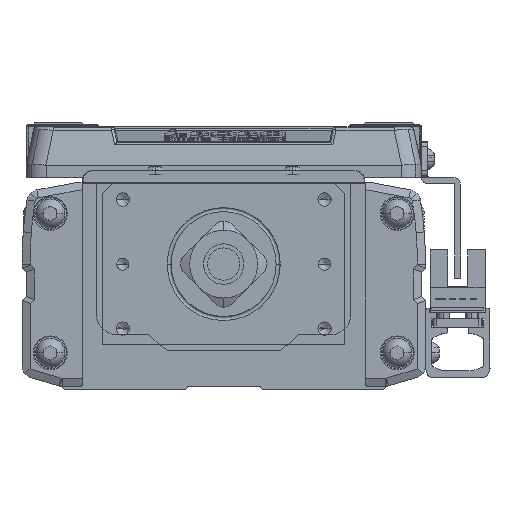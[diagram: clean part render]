
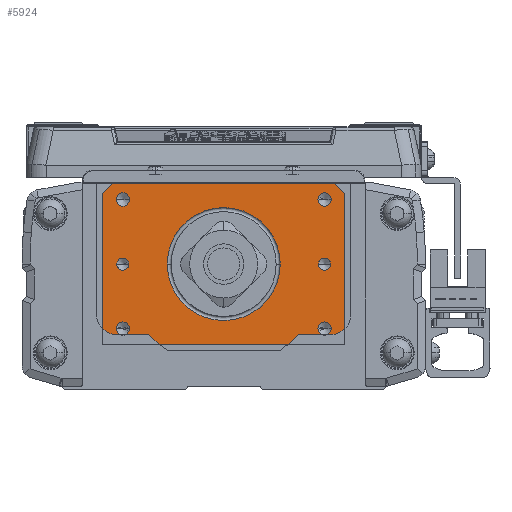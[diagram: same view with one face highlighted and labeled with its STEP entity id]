
A CAD part, left-side view. The second image highlights one B-rep face of the part: STEP entity #5924.
In plain terms, the highlighted planar face has unit normal (-1, 0, 0).
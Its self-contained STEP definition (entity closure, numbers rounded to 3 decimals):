
#5924=ADVANCED_FACE('',(#12567,#12568,#12569,#12570,#12571,#12572,#12573,#12574),#12575,.T.);
#12567=FACE_BOUND('',#20415,.T.);
#12568=FACE_BOUND('',#20416,.T.);
#12569=FACE_BOUND('',#20417,.T.);
#12570=FACE_BOUND('',#20418,.T.);
#12571=FACE_BOUND('',#20419,.T.);
#12572=FACE_BOUND('',#20420,.T.);
#12573=FACE_BOUND('',#20421,.T.);
#12574=FACE_OUTER_BOUND('',#20422,.T.);
#12575=PLANE('',#20423);
#20415=EDGE_LOOP('',(#37077,#37078));
#20416=EDGE_LOOP('',(#37079,#37080));
#20417=EDGE_LOOP('',(#37081,#37082));
#20418=EDGE_LOOP('',(#37083,#37084));
#20419=EDGE_LOOP('',(#37085,#37086));
#20420=EDGE_LOOP('',(#37087,#37088));
#20421=EDGE_LOOP('',(#37089,#37090,#37091));
#20422=EDGE_LOOP('',(#37092,#37093,#37094,#37095,#37096,#37097));
#20423=AXIS2_PLACEMENT_3D('',#37098,#37099,#37100);
#37077=ORIENTED_EDGE('',*,*,#45936,.T.);
#37078=ORIENTED_EDGE('',*,*,#51430,.T.);
#37079=ORIENTED_EDGE('',*,*,#47580,.T.);
#37080=ORIENTED_EDGE('',*,*,#51431,.T.);
#37081=ORIENTED_EDGE('',*,*,#46182,.T.);
#37082=ORIENTED_EDGE('',*,*,#50840,.T.);
#37083=ORIENTED_EDGE('',*,*,#50546,.T.);
#37084=ORIENTED_EDGE('',*,*,#51432,.T.);
#37085=ORIENTED_EDGE('',*,*,#51433,.T.);
#37086=ORIENTED_EDGE('',*,*,#51434,.T.);
#37087=ORIENTED_EDGE('',*,*,#51435,.T.);
#37088=ORIENTED_EDGE('',*,*,#51436,.T.);
#37089=ORIENTED_EDGE('',*,*,#48680,.T.);
#37090=ORIENTED_EDGE('',*,*,#51437,.T.);
#37091=ORIENTED_EDGE('',*,*,#48681,.T.);
#37092=ORIENTED_EDGE('',*,*,#50558,.F.);
#37093=ORIENTED_EDGE('',*,*,#46799,.F.);
#37094=ORIENTED_EDGE('',*,*,#47823,.T.);
#37095=ORIENTED_EDGE('',*,*,#45362,.T.);
#37096=ORIENTED_EDGE('',*,*,#49426,.F.);
#37097=ORIENTED_EDGE('',*,*,#49110,.T.);
#37098=CARTESIAN_POINT('',(-580.,0.,-20.));
#37099=DIRECTION('',(-1.0,0.,0.));
#37100=DIRECTION('',(0.,-1.0,0.));
#45362=EDGE_CURVE('',#54384,#54381,#54385,.T.);
#45936=EDGE_CURVE('',#55380,#55382,#55384,.T.);
#46182=EDGE_CURVE('',#55799,#55801,#55803,.T.);
#46799=EDGE_CURVE('',#56864,#56860,#56866,.T.);
#47580=EDGE_CURVE('',#58136,#58141,#58143,.T.);
#47823=EDGE_CURVE('',#56864,#54384,#58536,.T.);
#48680=EDGE_CURVE('',#59852,#59850,#59853,.T.);
#48681=EDGE_CURVE('',#59854,#59852,#59855,.T.);
#49110=EDGE_CURVE('',#60487,#60484,#60488,.T.);
#49426=EDGE_CURVE('',#60487,#54381,#60960,.T.);
#50546=EDGE_CURVE('',#62484,#62487,#62489,.T.);
#50558=EDGE_CURVE('',#56860,#60484,#62502,.T.);
#50840=EDGE_CURVE('',#55801,#55799,#62872,.T.);
#51430=EDGE_CURVE('',#55382,#55380,#63612,.T.);
#51431=EDGE_CURVE('',#58141,#58136,#63613,.T.);
#51432=EDGE_CURVE('',#62487,#62484,#63614,.T.);
#51433=EDGE_CURVE('',#63615,#63616,#63617,.T.);
#51434=EDGE_CURVE('',#63616,#63615,#63618,.T.);
#51435=EDGE_CURVE('',#63619,#63620,#63621,.T.);
#51436=EDGE_CURVE('',#63620,#63619,#63622,.T.);
#51437=EDGE_CURVE('',#59850,#59854,#63623,.T.);
#54381=VERTEX_POINT('',#67245);
#54384=VERTEX_POINT('',#67249);
#54385=LINE('',#67250,#67251);
#55380=VERTEX_POINT('',#68684);
#55382=VERTEX_POINT('',#68687);
#55384=CIRCLE('',#68690,1.5);
#55799=VERTEX_POINT('',#69240);
#55801=VERTEX_POINT('',#69243);
#55803=CIRCLE('',#69246,1.65);
#56860=VERTEX_POINT('',#70679);
#56864=VERTEX_POINT('',#70685);
#56866=LINE('',#70688,#70689);
#58136=VERTEX_POINT('',#72496);
#58141=VERTEX_POINT('',#72502);
#58143=CIRCLE('',#72505,1.5);
#58536=LINE('',#73096,#73097);
#59850=VERTEX_POINT('',#74955);
#59852=VERTEX_POINT('',#74957);
#59853=CIRCLE('',#74958,14.0);
#59854=VERTEX_POINT('',#74959);
#59855=CIRCLE('',#74960,14.0);
#60484=VERTEX_POINT('',#75805);
#60487=VERTEX_POINT('',#75809);
#60488=LINE('',#75810,#75811);
#60960=LINE('',#76430,#76431);
#62484=VERTEX_POINT('',#78677);
#62487=VERTEX_POINT('',#78681);
#62489=CIRCLE('',#78684,1.65);
#62502=LINE('',#78700,#78701);
#62872=CIRCLE('',#79191,1.65);
#63612=CIRCLE('',#80254,1.5);
#63613=CIRCLE('',#80255,1.5);
#63614=CIRCLE('',#80256,1.65);
#63615=VERTEX_POINT('',#80257);
#63616=VERTEX_POINT('',#80258);
#63617=CIRCLE('',#80259,1.65);
#63618=CIRCLE('',#80260,1.65);
#63619=VERTEX_POINT('',#80261);
#63620=VERTEX_POINT('',#80262);
#63621=CIRCLE('',#80263,1.65);
#63622=CIRCLE('',#80264,1.65);
#63623=CIRCLE('',#80265,14.0);
#67245=CARTESIAN_POINT('',(-580.,-30.,17.5));
#67249=CARTESIAN_POINT('',(-580.,-30.,-20.));
#67250=CARTESIAN_POINT('',(-580.,-30.,-20.));
#67251=VECTOR('',#83750,10.0);
#68684=CARTESIAN_POINT('',(-580.,-26.5,0.));
#68687=CARTESIAN_POINT('',(-580.,-23.5,0.));
#68690=AXIS2_PLACEMENT_3D('',#84430,#84431,#84432);
#69240=CARTESIAN_POINT('',(-580.,-26.65,-16.));
#69243=CARTESIAN_POINT('',(-580.,-23.35,-16.));
#69246=AXIS2_PLACEMENT_3D('',#84770,#84771,#84772);
#70679=CARTESIAN_POINT('',(-580.,30.,17.5));
#70685=CARTESIAN_POINT('',(-580.,30.,-20.));
#70688=CARTESIAN_POINT('',(-580.,30.,-20.));
#70689=VECTOR('',#85623,10.0);
#72496=CARTESIAN_POINT('',(-580.,26.5,0.));
#72502=CARTESIAN_POINT('',(-580.,23.5,0.));
#72505=AXIS2_PLACEMENT_3D('',#86684,#86685,#86686);
#73096=CARTESIAN_POINT('',(-580.,30.,-20.));
#73097=VECTOR('',#87040,10.0);
#74955=CARTESIAN_POINT('',(-580.,14.,0.));
#74957=CARTESIAN_POINT('',(-580.,0.,-14.));
#74958=AXIS2_PLACEMENT_3D('',#88147,#88148,#88149);
#74959=CARTESIAN_POINT('',(-580.,-14.,0.));
#74960=AXIS2_PLACEMENT_3D('',#88150,#88151,#88152);
#75805=CARTESIAN_POINT('',(-580.,27.5,20.));
#75809=CARTESIAN_POINT('',(-580.,-27.5,20.));
#75810=CARTESIAN_POINT('',(-580.,30.,20.));
#75811=VECTOR('',#88728,10.0);
#76430=CARTESIAN_POINT('',(-580.,-31.25,16.25));
#76431=VECTOR('',#89138,10.);
#78677=CARTESIAN_POINT('',(-580.,26.65,-16.));
#78681=CARTESIAN_POINT('',(-580.,23.35,-16.));
#78684=AXIS2_PLACEMENT_3D('',#90427,#90428,#90429);
#78700=CARTESIAN_POINT('',(-580.,31.25,16.25));
#78701=VECTOR('',#90442,10.);
#79191=AXIS2_PLACEMENT_3D('',#90772,#90773,#90774);
#80254=AXIS2_PLACEMENT_3D('',#91485,#91486,#91487);
#80255=AXIS2_PLACEMENT_3D('',#91488,#91489,#91490);
#80256=AXIS2_PLACEMENT_3D('',#91491,#91492,#91493);
#80257=CARTESIAN_POINT('',(-580.,26.65,16.));
#80258=CARTESIAN_POINT('',(-580.,23.35,16.));
#80259=AXIS2_PLACEMENT_3D('',#91494,#91495,#91496);
#80260=AXIS2_PLACEMENT_3D('',#91497,#91498,#91499);
#80261=CARTESIAN_POINT('',(-580.,-26.65,16.));
#80262=CARTESIAN_POINT('',(-580.,-23.35,16.));
#80263=AXIS2_PLACEMENT_3D('',#91500,#91501,#91502);
#80264=AXIS2_PLACEMENT_3D('',#91503,#91504,#91505);
#80265=AXIS2_PLACEMENT_3D('',#91506,#91507,#91508);
#83750=DIRECTION('',(0.,0.,1.0));
#84430=CARTESIAN_POINT('',(-580.,-25.,0.));
#84431=DIRECTION('',(1.0,0.,0.));
#84432=DIRECTION('',(0.,-1.0,0.));
#84770=CARTESIAN_POINT('',(-580.,-25.,-16.));
#84771=DIRECTION('',(1.0,0.,0.));
#84772=DIRECTION('',(0.,-1.0,0.));
#85623=DIRECTION('',(0.,0.,1.0));
#86684=CARTESIAN_POINT('',(-580.,25.,0.));
#86685=DIRECTION('',(1.0,0.,0.));
#86686=DIRECTION('',(0.,1.0,0.));
#87040=DIRECTION('',(0.,-1.0,0.));
#88147=CARTESIAN_POINT('',(-580.,0.,0.));
#88148=DIRECTION('',(1.0,0.,0.));
#88149=DIRECTION('',(0.,0.,1.0));
#88150=CARTESIAN_POINT('',(-580.,0.,0.));
#88151=DIRECTION('',(1.0,0.,0.));
#88152=DIRECTION('',(0.,0.,1.0));
#88728=DIRECTION('',(0.,1.0,0.));
#89138=DIRECTION('',(0.0,-0.707,-0.707));
#90427=CARTESIAN_POINT('',(-580.,25.,-16.));
#90428=DIRECTION('',(1.0,0.,0.));
#90429=DIRECTION('',(0.,1.0,0.));
#90442=DIRECTION('',(0.,-0.707,0.707));
#90772=CARTESIAN_POINT('',(-580.,-25.,-16.));
#90773=DIRECTION('',(1.0,0.,0.));
#90774=DIRECTION('',(0.,-1.0,0.));
#91485=CARTESIAN_POINT('',(-580.,-25.,0.));
#91486=DIRECTION('',(1.0,0.,0.));
#91487=DIRECTION('',(0.,-1.0,0.));
#91488=CARTESIAN_POINT('',(-580.,25.,0.));
#91489=DIRECTION('',(1.0,0.,0.));
#91490=DIRECTION('',(0.,1.0,0.));
#91491=CARTESIAN_POINT('',(-580.,25.,-16.));
#91492=DIRECTION('',(1.0,0.,0.));
#91493=DIRECTION('',(0.,1.0,0.));
#91494=CARTESIAN_POINT('',(-580.,25.,16.));
#91495=DIRECTION('',(1.0,0.,0.));
#91496=DIRECTION('',(0.,1.0,0.));
#91497=CARTESIAN_POINT('',(-580.,25.,16.));
#91498=DIRECTION('',(1.0,0.,0.));
#91499=DIRECTION('',(0.,1.0,0.));
#91500=CARTESIAN_POINT('',(-580.,-25.,16.));
#91501=DIRECTION('',(1.0,0.,0.));
#91502=DIRECTION('',(0.,-1.0,0.));
#91503=CARTESIAN_POINT('',(-580.,-25.,16.));
#91504=DIRECTION('',(1.0,0.,0.));
#91505=DIRECTION('',(0.,-1.0,0.));
#91506=CARTESIAN_POINT('',(-580.,0.,0.));
#91507=DIRECTION('',(1.0,0.,0.));
#91508=DIRECTION('',(0.,0.,1.0));
